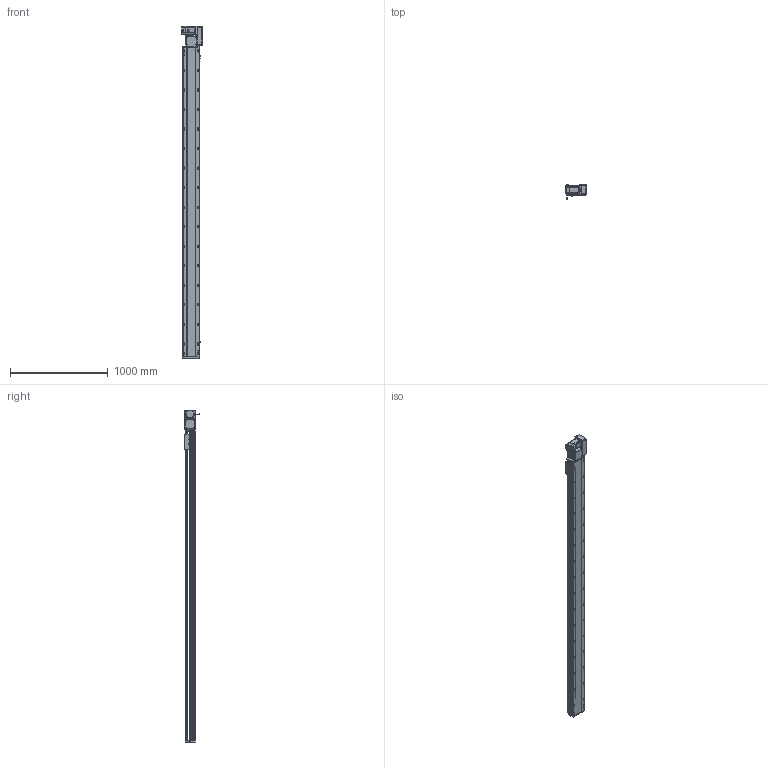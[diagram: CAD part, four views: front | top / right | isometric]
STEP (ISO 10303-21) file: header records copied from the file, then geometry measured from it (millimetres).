
FILE_DESCRIPTION (( 'STEP AP214' ), '1' );
FILE_NAME ('RTB17S-XX-2900-R-M75-C4.STEP', '2025-12-12T01:50:15', ( '' ), ( '' ), 'SwSTEP 2.0', 'SolidWorks 2018', '' );
FILE_SCHEMA (( 'AUTOMOTIVE_DESIGN' ));
Length unit declared in the file: millimetre
Products named in the file (15): RTB17S-R-々湍釱蚾饜-750W^RTB17S-XX-XX-R-M75-C4; RTB17S-L-014-T20-P75--々湍釱^RTB17S-R-々湍釱蚾饜-750W_RTB17S-XX-XX-R-M75-C4; RTB22S-GY-017P^RTB17S-R-々湍釱蚾饜-750W_RTB17S-XX-XX-R-M75-C4; RTB17S-賑釱^RTB17S-XX-XX-R-M75-C4; RTB22S-GY-018P^RTB17S-R-々湍釱蚾饜-750W_RTB17S-XX-XX-R-M75-C4; RTB22S-GY-005P^RTB17S-R-々湍釱蚾饜-750W_RTB17S-XX-XX-R-M75-C4; RTH13-BL-012覜茼え俋离^RTB17S-賑釱_RTB17S-XX-XX-R-M75-C4; RTB22S-GY-008-M75--萇儂啣^RTB17S-R-々湍釱蚾饜-750W_RTB17S-XX-XX-R-M75-C4; RTB17S-L-007奻裔^RTB17S-XX-XX-R-M75-C4; RTB17S-L-004-賑釱^RTB17S-賑釱_RTB17S-XX-XX-R-M75-C4; RTB17-R-011菁釱^RTB17S-XX-XX-R-M75-C4; RTB17S-L-001-耜醱啣^RTB17S-XX-XX-R-M75-C4; 750W萇儂^RTB17S-XX-XX-R-M75-C4; RTB17S-XX-2900-R-M75-C4; EE672^RTB17S-XX-XX-R-M75-C4
Assembly tree (17 placements, depth 3):
  RTB17S-XX-2900-R-M75-C4
    RTB17-R-011菁釱^RTB17S-XX-XX-R-M75-C4
    EE672^RTB17S-XX-XX-R-M75-C4  x3
    RTB17S-L-001-耜醱啣^RTB17S-XX-XX-R-M75-C4
    RTB17S-賑釱^RTB17S-XX-XX-R-M75-C4
      RTB17S-L-004-賑釱^RTB17S-賑釱_RTB17S-XX-XX-R-M75-C4
      RTH13-BL-012覜茼え俋离^RTB17S-賑釱_RTB17S-XX-XX-R-M75-C4
    RTB17S-L-007奻裔^RTB17S-XX-XX-R-M75-C4
    750W萇儂^RTB17S-XX-XX-R-M75-C4
    RTB17S-R-々湍釱蚾饜-750W^RTB17S-XX-XX-R-M75-C4
      RTB17S-L-014-T20-P75--々湍釱^RTB17S-R-々湍釱蚾饜-750W_RTB17S-XX-XX-R-M75-C4
      RTB22S-GY-005P^RTB17S-R-々湍釱蚾饜-750W_RTB17S-XX-XX-R-M75-C4
      RTB22S-GY-017P^RTB17S-R-々湍釱蚾饜-750W_RTB17S-XX-XX-R-M75-C4  x2
      RTB22S-GY-008-M75--萇儂啣^RTB17S-R-々湍釱蚾饜-750W_RTB17S-XX-XX-R-M75-C4
      RTB22S-GY-018P^RTB17S-R-々湍釱蚾饜-750W_RTB17S-XX-XX-R-M75-C4
Bounding box: 207.4 x 152.7 x 3399 mm (x, y, z)
Volume: 24075719.8 mm3; surface area: 4405643.9 mm2
Topology: 17 solids, 17 shells, 2249 faces, 6322 edges, 4094 vertices
Faces by surface type: plane 990, cylinder 843, bspline 294, cone 110, sphere 8, torus 4
Entity records: 65782 total; most frequent: CARTESIAN_POINT 19586, ORIENTED_EDGE 9488, DIRECTION 8762, EDGE_CURVE 4744, AXIS2_PLACEMENT_3D 3114, VERTEX_POINT 3098, LINE 2534, VECTOR 2534
